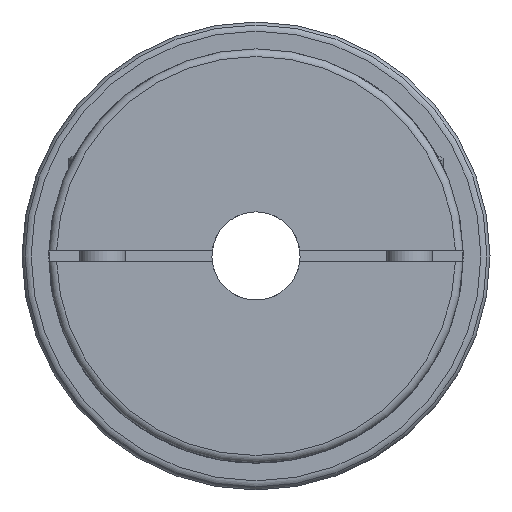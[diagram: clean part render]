
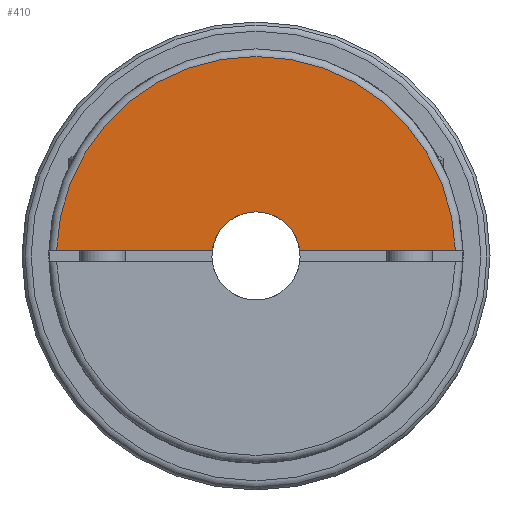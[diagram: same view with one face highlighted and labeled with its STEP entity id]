
A CAD part, left-side view. The second image highlights one B-rep face of the part: STEP entity #410.
In plain terms, the highlighted planar face has unit normal (-1, 0, 0).
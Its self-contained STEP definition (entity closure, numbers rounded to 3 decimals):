
#410 = ADVANCED_FACE( '', ( #1145 ), #1146, .F. );
#1145 = FACE_OUTER_BOUND( '', #2410, .T. );
#1146 = PLANE( '', #2411 );
#2410 = EDGE_LOOP( '', ( #3769, #3770, #3771, #3772 ) );
#2411 = AXIS2_PLACEMENT_3D( '', #3773, #3774, #3775 );
#3769 = ORIENTED_EDGE( '', *, *, #6086, .F. );
#3770 = ORIENTED_EDGE( '', *, *, #6075, .F. );
#3771 = ORIENTED_EDGE( '', *, *, #6087, .T. );
#3772 = ORIENTED_EDGE( '', *, *, #5992, .F. );
#3773 = CARTESIAN_POINT( '', ( -198.584, 0., 11.5 ) );
#3774 = DIRECTION( '', ( 1., 0., 0. ) );
#3775 = DIRECTION( '', ( 0., 0., 1. ) );
#5992 = EDGE_CURVE( '', #6870, #6871, #6872, .T. );
#6075 = EDGE_CURVE( '', #7016, #7018, #7019, .T. );
#6086 = EDGE_CURVE( '', #7018, #6870, #7036, .T. );
#6087 = EDGE_CURVE( '', #7016, #6871, #7037, .T. );
#6870 = VERTEX_POINT( '', #8210 );
#6871 = VERTEX_POINT( '', #8211 );
#6872 = LINE( '', #8212, #8213 );
#7016 = VERTEX_POINT( '', #8433 );
#7018 = VERTEX_POINT( '', #8436 );
#7019 = LINE( '', #8437, #8438 );
#7036 = CIRCLE( '', #8473, 52. );
#7037 = CIRCLE( '', #8474, 11.5 );
#8210 = CARTESIAN_POINT( '', ( -198.584, -51.978, 1.5 ) );
#8211 = CARTESIAN_POINT( '', ( -198.584, -11.402, 1.5 ) );
#8212 = CARTESIAN_POINT( '', ( -198.584, 0., 1.5 ) );
#8213 = VECTOR( '', #11103, 1000. );
#8433 = CARTESIAN_POINT( '', ( -198.584, 11.402, 1.5 ) );
#8436 = CARTESIAN_POINT( '', ( -198.584, 51.978, 1.5 ) );
#8437 = CARTESIAN_POINT( '', ( -198.584, 0., 1.5 ) );
#8438 = VECTOR( '', #11214, 1000. );
#8473 = AXIS2_PLACEMENT_3D( '', #11226, #11227, #11228 );
#8474 = AXIS2_PLACEMENT_3D( '', #11229, #11230, #11231 );
#11103 = DIRECTION( '', ( 0., 1., 0. ) );
#11214 = DIRECTION( '', ( 0., 1., 0. ) );
#11226 = CARTESIAN_POINT( '', ( -198.584, 0., 0. ) );
#11227 = DIRECTION( '', ( 1., 0., 0. ) );
#11228 = DIRECTION( '', ( 0., 0., 1. ) );
#11229 = CARTESIAN_POINT( '', ( -198.584, 0., 0. ) );
#11230 = DIRECTION( '', ( 1., 0., 0. ) );
#11231 = DIRECTION( '', ( 0., 0., 1. ) );
